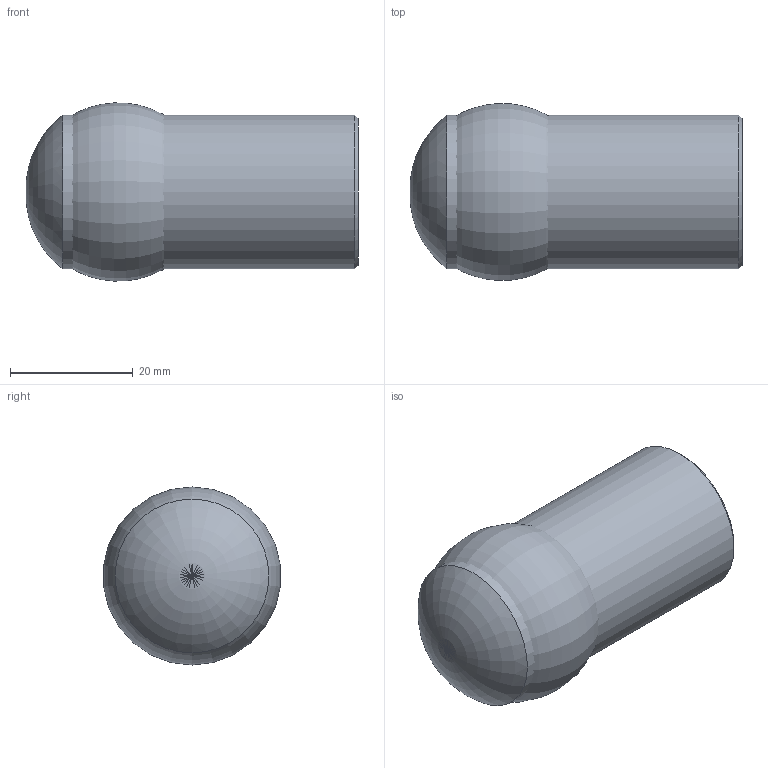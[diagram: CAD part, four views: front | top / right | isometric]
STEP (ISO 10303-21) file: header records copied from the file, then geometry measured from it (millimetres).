
FILE_DESCRIPTION(/* description */ ('Unknown'),/* implementation_level */ '2;1');
FILE_NAME(/* name */ 'CAP025C',/* time_stamp */ '2021-02-04T08:56:30+01:00',/* author */ ('Unknown'),/* organization */ ('Unknown'),/* preprocessor_version */ 'ST-DEVELOPER v16.7',/* originating_system */ 'Solid Edge',/* authorisation */ 'Unknown');
FILE_SCHEMA (('AUTOMOTIVE_DESIGN {1 0 10303 214 3 1 1}'));
Length unit declared in the file: millimetre
Products named in the file (1): CAP025C
Bounding box: 54 x 28.77 x 28.98 mm (x, y, z)
Volume: 954.6 mm3; surface area: 10209.7 mm2
Topology: 1 solids, 1 shells, 6 faces, 12 edges, 8 vertices
Faces by surface type: cylinder 2, sphere 1, torus 1, plane 1, cone 1
Full cylindrical faces by diameter (mm): 19 x1, 25 x1
Entity records: 148 total; most frequent: DIRECTION 24, CARTESIAN_POINT 18, AXIS2_PLACEMENT_3D 12, FACE_BOUND 11, ORIENTED_EDGE 10, EDGE_LOOP 10, VERTEX_POINT 6, ADVANCED_FACE 6
